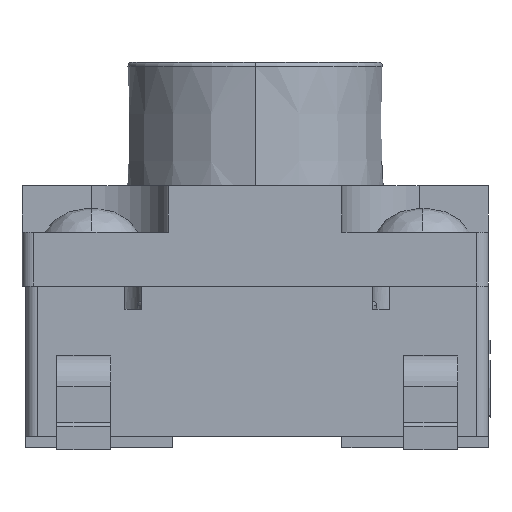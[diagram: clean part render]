
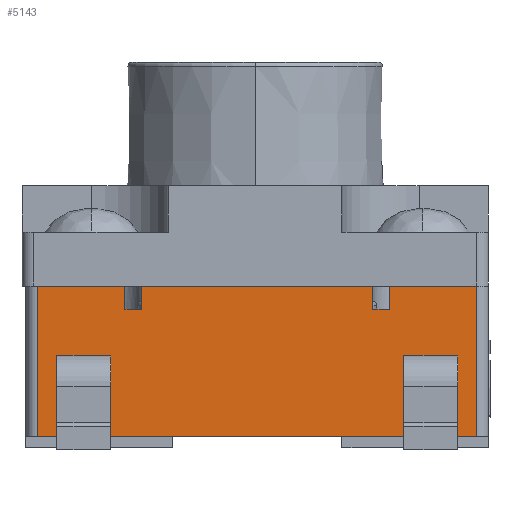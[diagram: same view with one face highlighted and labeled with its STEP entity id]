
A CAD part, left-side view. The second image highlights one B-rep face of the part: STEP entity #5143.
In plain terms, the highlighted planar face has unit normal (-1, 0, 0).
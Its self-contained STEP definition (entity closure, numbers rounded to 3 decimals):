
#926=DIRECTION('',(0.,0.,-1.));
#927=VECTOR('',#926,1.95);
#928=CARTESIAN_POINT('',(-22.162,34.89,-1.425));
#929=LINE('',#928,#927);
#934=DIRECTION('',(0.,0.,-1.));
#935=VECTOR('',#934,1.95);
#936=CARTESIAN_POINT('',(-22.162,29.19,-1.425));
#937=LINE('',#936,#935);
#938=DIRECTION('',(0.,1.,0.));
#939=VECTOR('',#938,5.7);
#940=CARTESIAN_POINT('',(-22.162,29.19,-3.375));
#941=LINE('',#940,#939);
#942=DIRECTION('',(0.,1.,0.));
#943=VECTOR('',#942,1.135);
#944=CARTESIAN_POINT('',(-22.162,33.755,-1.425));
#945=LINE('',#944,#943);
#946=DIRECTION('',(0.,-1.,0.));
#947=VECTOR('',#946,0.215);
#948=CARTESIAN_POINT('',(-22.162,33.755,-1.725));
#949=LINE('',#948,#947);
#950=DIRECTION('',(0.,1.,0.));
#951=VECTOR('',#950,3.);
#952=CARTESIAN_POINT('',(-22.162,30.54,-1.425));
#953=LINE('',#952,#951);
#954=DIRECTION('',(0.,0.,-1.));
#955=VECTOR('',#954,0.3);
#956=CARTESIAN_POINT('',(-22.162,30.54,-1.425));
#957=LINE('',#956,#955);
#958=DIRECTION('',(0.,-1.,0.));
#959=VECTOR('',#958,0.215);
#960=CARTESIAN_POINT('',(-22.162,30.54,-1.725));
#961=LINE('',#960,#959);
#962=DIRECTION('',(0.,1.,0.));
#963=VECTOR('',#962,1.135);
#964=CARTESIAN_POINT('',(-22.162,29.19,-1.425));
#965=LINE('',#964,#963);
#966=DIRECTION('',(0.,1.,0.));
#967=VECTOR('',#966,0.7);
#968=CARTESIAN_POINT('',(-22.162,33.94,-2.325));
#969=LINE('',#968,#967);
#970=DIRECTION('',(0.,0.,-1.));
#971=VECTOR('',#970,0.3);
#972=CARTESIAN_POINT('',(-22.162,34.64,-2.325));
#973=LINE('',#972,#971);
#974=DIRECTION('',(0.,1.,0.));
#975=VECTOR('',#974,0.7);
#976=CARTESIAN_POINT('',(-22.162,33.94,-2.625));
#977=LINE('',#976,#975);
#978=DIRECTION('',(0.,0.,1.));
#979=VECTOR('',#978,0.3);
#980=CARTESIAN_POINT('',(-22.162,33.94,-2.625));
#981=LINE('',#980,#979);
#982=DIRECTION('',(0.,-1.,0.));
#983=VECTOR('',#982,0.7);
#984=CARTESIAN_POINT('',(-22.162,30.14,-2.325));
#985=LINE('',#984,#983);
#986=DIRECTION('',(0.,0.,1.));
#987=VECTOR('',#986,0.3);
#988=CARTESIAN_POINT('',(-22.162,30.14,-2.625));
#989=LINE('',#988,#987);
#990=DIRECTION('',(0.,-1.,0.));
#991=VECTOR('',#990,0.7);
#992=CARTESIAN_POINT('',(-22.162,30.14,-2.625));
#993=LINE('',#992,#991);
#994=DIRECTION('',(0.,0.,1.));
#995=VECTOR('',#994,0.3);
#996=CARTESIAN_POINT('',(-22.162,29.44,-2.625));
#997=LINE('',#996,#995);
#1019=DIRECTION('',(0.,0.,1.));
#1020=VECTOR('',#1019,0.3);
#1021=CARTESIAN_POINT('',(-22.162,33.755,-1.725));
#1022=LINE('',#1021,#1020);
#1161=DIRECTION('',(0.,0.,-1.));
#1162=VECTOR('',#1161,0.3);
#1163=CARTESIAN_POINT('',(-22.162,33.54,-1.425));
#1164=LINE('',#1163,#1162);
#1654=DIRECTION('',(0.,0.,-1.));
#1655=VECTOR('',#1654,0.3);
#1656=CARTESIAN_POINT('',(-22.162,30.325,-1.425));
#1657=LINE('',#1656,#1655);
#2948=CARTESIAN_POINT('',(-22.162,33.755,-1.725));
#2950=VERTEX_POINT('',#2948);
#3004=CARTESIAN_POINT('',(-22.162,34.89,-3.375));
#3005=VERTEX_POINT('',#3004);
#3006=CARTESIAN_POINT('',(-22.162,29.19,-3.375));
#3008=VERTEX_POINT('',#3006);
#3046=CARTESIAN_POINT('',(-22.162,30.325,-1.725));
#3047=VERTEX_POINT('',#3046);
#3479=CARTESIAN_POINT('',(-22.162,30.54,-1.725));
#3480=VERTEX_POINT('',#3479);
#3481=CARTESIAN_POINT('',(-22.162,33.54,-1.725));
#3482=VERTEX_POINT('',#3481);
#3504=CARTESIAN_POINT('',(-22.162,29.19,-1.425));
#3506=VERTEX_POINT('',#3504);
#3507=CARTESIAN_POINT('',(-22.162,30.325,-1.425));
#3508=VERTEX_POINT('',#3507);
#3509=CARTESIAN_POINT('',(-22.162,30.54,-1.425));
#3510=CARTESIAN_POINT('',(-22.162,33.54,-1.425));
#3511=VERTEX_POINT('',#3509);
#3512=VERTEX_POINT('',#3510);
#3513=CARTESIAN_POINT('',(-22.162,33.755,-1.425));
#3514=CARTESIAN_POINT('',(-22.162,34.89,-1.425));
#3515=VERTEX_POINT('',#3513);
#3516=VERTEX_POINT('',#3514);
#3607=CARTESIAN_POINT('',(-22.162,33.94,-2.325));
#3608=CARTESIAN_POINT('',(-22.162,34.64,-2.325));
#3609=VERTEX_POINT('',#3607);
#3610=VERTEX_POINT('',#3608);
#3611=CARTESIAN_POINT('',(-22.162,34.64,-2.625));
#3612=VERTEX_POINT('',#3611);
#3613=CARTESIAN_POINT('',(-22.162,33.94,-2.625));
#3614=VERTEX_POINT('',#3613);
#3623=CARTESIAN_POINT('',(-22.162,30.14,-2.325));
#3624=CARTESIAN_POINT('',(-22.162,29.44,-2.325));
#3625=VERTEX_POINT('',#3623);
#3626=VERTEX_POINT('',#3624);
#3627=CARTESIAN_POINT('',(-22.162,30.14,-2.625));
#3628=VERTEX_POINT('',#3627);
#3629=CARTESIAN_POINT('',(-22.162,29.44,-2.625));
#3630=VERTEX_POINT('',#3629);
#5097=CARTESIAN_POINT('',(-22.162,32.04,-2.4));
#5098=DIRECTION('',(1.,0.,0.));
#5099=DIRECTION('',(0.,1.,0.));
#5100=AXIS2_PLACEMENT_3D('',#5097,#5098,#5099);
#5101=PLANE('',#5100);
#5103=ORIENTED_EDGE('',*,*,#5102,.T.);
#5104=ORIENTED_EDGE('',*,*,#5014,.T.);
#5105=ORIENTED_EDGE('',*,*,#5090,.F.);
#5106=ORIENTED_EDGE('',*,*,#4041,.F.);
#5108=ORIENTED_EDGE('',*,*,#5107,.F.);
#5110=ORIENTED_EDGE('',*,*,#5109,.T.);
#5112=ORIENTED_EDGE('',*,*,#5111,.F.);
#5113=ORIENTED_EDGE('',*,*,#4013,.F.);
#5115=ORIENTED_EDGE('',*,*,#5114,.T.);
#5117=ORIENTED_EDGE('',*,*,#5116,.T.);
#5119=ORIENTED_EDGE('',*,*,#5118,.F.);
#5120=ORIENTED_EDGE('',*,*,#3997,.F.);
#5121=EDGE_LOOP('',(#5103,#5104,#5105,#5106,#5108,#5110,#5112,#5113,#5115,#5117,
#5119,#5120));
#5122=FACE_OUTER_BOUND('',#5121,.F.);
#5124=ORIENTED_EDGE('',*,*,#5123,.T.);
#5126=ORIENTED_EDGE('',*,*,#5125,.T.);
#5128=ORIENTED_EDGE('',*,*,#5127,.F.);
#5130=ORIENTED_EDGE('',*,*,#5129,.T.);
#5131=EDGE_LOOP('',(#5124,#5126,#5128,#5130));
#5132=FACE_BOUND('',#5131,.F.);
#5134=ORIENTED_EDGE('',*,*,#5133,.F.);
#5136=ORIENTED_EDGE('',*,*,#5135,.F.);
#5138=ORIENTED_EDGE('',*,*,#5137,.T.);
#5140=ORIENTED_EDGE('',*,*,#5139,.T.);
#5141=EDGE_LOOP('',(#5134,#5136,#5138,#5140));
#5142=FACE_BOUND('',#5141,.F.);
#3997=EDGE_CURVE('',#3506,#3508,#965,.T.);
#4013=EDGE_CURVE('',#3511,#3512,#953,.T.);
#4041=EDGE_CURVE('',#3515,#3516,#945,.T.);
#5014=EDGE_CURVE('',#3008,#3005,#941,.T.);
#5090=EDGE_CURVE('',#3516,#3005,#929,.T.);
#5102=EDGE_CURVE('',#3506,#3008,#937,.T.);
#5107=EDGE_CURVE('',#2950,#3515,#1022,.T.);
#5109=EDGE_CURVE('',#2950,#3482,#949,.T.);
#5111=EDGE_CURVE('',#3512,#3482,#1164,.T.);
#5114=EDGE_CURVE('',#3511,#3480,#957,.T.);
#5116=EDGE_CURVE('',#3480,#3047,#961,.T.);
#5118=EDGE_CURVE('',#3508,#3047,#1657,.T.);
#5123=EDGE_CURVE('',#3609,#3610,#969,.T.);
#5125=EDGE_CURVE('',#3610,#3612,#973,.T.);
#5127=EDGE_CURVE('',#3614,#3612,#977,.T.);
#5129=EDGE_CURVE('',#3614,#3609,#981,.T.);
#5133=EDGE_CURVE('',#3625,#3626,#985,.T.);
#5135=EDGE_CURVE('',#3628,#3625,#989,.T.);
#5137=EDGE_CURVE('',#3628,#3630,#993,.T.);
#5139=EDGE_CURVE('',#3630,#3626,#997,.T.);
#5143=ADVANCED_FACE('',(#5122,#5132,#5142),#5101,.F.);
